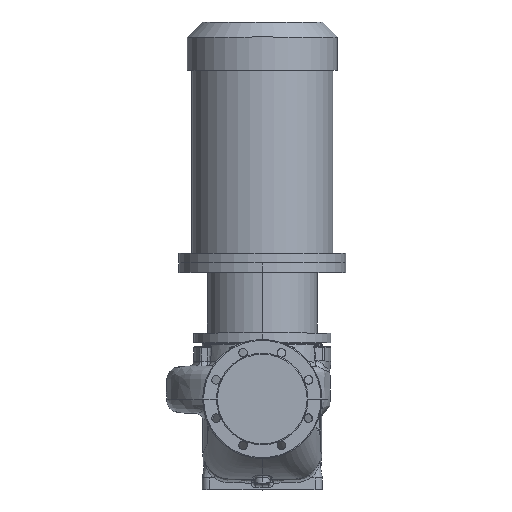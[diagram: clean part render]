
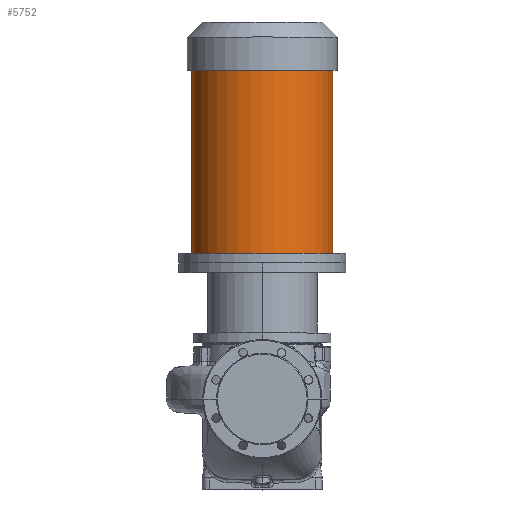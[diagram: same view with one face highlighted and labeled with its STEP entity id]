
A CAD part, top view. The second image highlights one B-rep face of the part: STEP entity #5752.
In plain terms, the highlighted cylindrical face has radius 147.5 mm (diameter 295 mm), a partial arc.
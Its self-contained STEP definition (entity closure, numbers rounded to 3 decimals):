
#1861 = CIRCLE ( 'NONE', #25430, 147.5 ) ;
#4757 = VERTEX_POINT ( 'NONE', #28359 ) ;
#5752 = ADVANCED_FACE ( 'NONE', ( #10811 ), #8548, .T. ) ;
#7095 = CARTESIAN_POINT ( 'NONE',  ( 147.5, 305.8, 0. ) ) ;
#8548 = CYLINDRICAL_SURFACE ( 'NONE', #18327, 147.5 ) ;
#8551 = VERTEX_POINT ( 'NONE', #7095 ) ;
#10746 = DIRECTION ( 'NONE',  ( 0., -1., 0. ) ) ;
#10811 = FACE_OUTER_BOUND ( 'NONE', #31546, .T. ) ;
#13436 = DIRECTION ( 'NONE',  ( -1., 0., 0. ) ) ;
#18327 = AXIS2_PLACEMENT_3D ( 'NONE', #24117, #34342, #62807 ) ;
#20288 = ORIENTED_EDGE ( 'NONE', *, *, #36436, .T. ) ;
#24117 = CARTESIAN_POINT ( 'NONE',  ( 0., 285.8, 0. ) ) ;
#24234 = CARTESIAN_POINT ( 'NONE',  ( -147.5, 689.8, 0. ) ) ;
#24320 = LINE ( 'NONE', #27495, #54941 ) ;
#25430 = AXIS2_PLACEMENT_3D ( 'NONE', #52563, #47850, #13436 ) ;
#25774 = EDGE_CURVE ( 'NONE', #33451, #4757, #47678, .T. ) ;
#27495 = CARTESIAN_POINT ( 'NONE',  ( 147.5, 285.8, 0. ) ) ;
#28359 = CARTESIAN_POINT ( 'NONE',  ( -147.5, 305.8, 0. ) ) ;
#29763 = CARTESIAN_POINT ( 'NONE',  ( -147.5, 285.8, 0. ) ) ;
#31099 = AXIS2_PLACEMENT_3D ( 'NONE', #45878, #35832, #50599 ) ;
#31546 = EDGE_LOOP ( 'NONE', ( #49680, #20288, #38248, #62789 ) ) ;
#33451 = VERTEX_POINT ( 'NONE', #24234 ) ;
#33937 = VECTOR ( 'NONE', #10746, 1000. ) ;
#34342 = DIRECTION ( 'NONE',  ( 0., -1., 0. ) ) ;
#35832 = DIRECTION ( 'NONE',  ( 0., -1., 0. ) ) ;
#36436 = EDGE_CURVE ( 'NONE', #49527, #33451, #39757, .T. ) ;
#38248 = ORIENTED_EDGE ( 'NONE', *, *, #25774, .T. ) ;
#39757 = CIRCLE ( 'NONE', #31099, 147.5 ) ;
#40995 = EDGE_CURVE ( 'NONE', #49527, #8551, #24320, .T. ) ;
#45878 = CARTESIAN_POINT ( 'NONE',  ( 0., 689.8, 0. ) ) ;
#47678 = LINE ( 'NONE', #29763, #33937 ) ;
#47850 = DIRECTION ( 'NONE',  ( 0., -1., 0. ) ) ;
#48405 = DIRECTION ( 'NONE',  ( 0., -1., 0. ) ) ;
#49527 = VERTEX_POINT ( 'NONE', #52234 ) ;
#49680 = ORIENTED_EDGE ( 'NONE', *, *, #40995, .F. ) ;
#50599 = DIRECTION ( 'NONE',  ( -1., 0., 0. ) ) ;
#52059 = EDGE_CURVE ( 'NONE', #8551, #4757, #1861, .T. ) ;
#52234 = CARTESIAN_POINT ( 'NONE',  ( 147.5, 689.8, 0. ) ) ;
#52563 = CARTESIAN_POINT ( 'NONE',  ( 0., 305.8, 0. ) ) ;
#54941 = VECTOR ( 'NONE', #48405, 1000. ) ;
#62789 = ORIENTED_EDGE ( 'NONE', *, *, #52059, .F. ) ;
#62807 = DIRECTION ( 'NONE',  ( -1., 0., 0. ) ) ;
